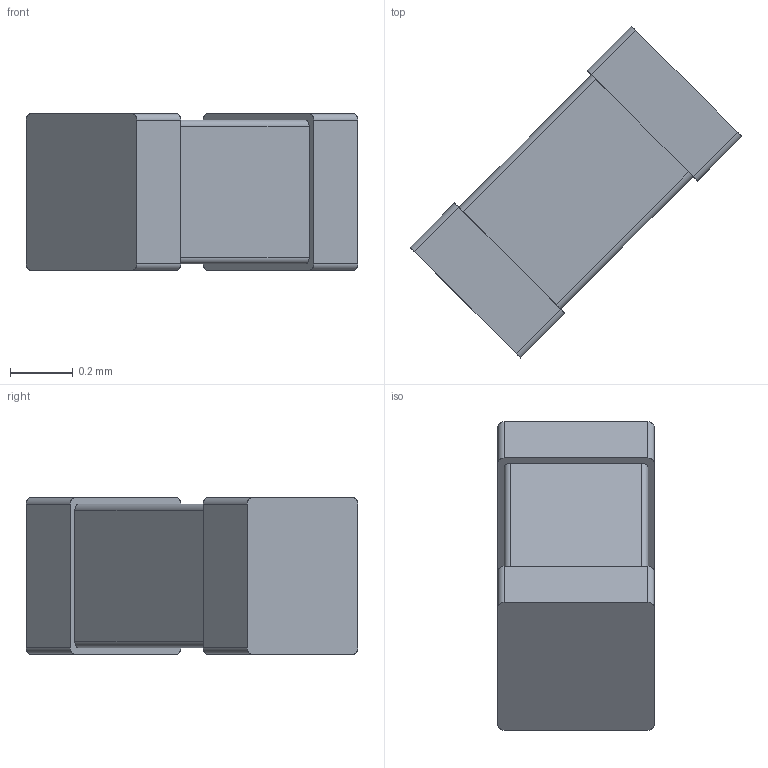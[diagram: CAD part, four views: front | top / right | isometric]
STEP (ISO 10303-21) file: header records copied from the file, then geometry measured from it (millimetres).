
FILE_DESCRIPTION(/* description */ ('STEP AP242 Edition 2','CAx-IF Rec.Pracs.---Representation and Presentation of Product Manufacturing Information (PMI)---4.0---2014-10-13','CAx-IF Rec.Pracs.---3D Tessellated Geometry---0.4---2014-09-14','2;1','CAx-IF Rec.Pracs.---User Defined Attributes---1.5---2016-08-15'),/* implementation_level */ '2;1');
FILE_NAME(/* name */ 'v2_assembly - C_0402_1005Metric_14',/* time_stamp */ '2026-05-19T16:26:04Z',/* author */ (''),/* organization */ (''),/* preprocessor_version */ 'ST-DEVELOPER v20',/* originating_system */ 'ONSHAPE BY PTC INC, 1.215',/* authorisation */ ' ');
FILE_SCHEMA (('AP242_MANAGED_MODEL_BASED_3D_ENGINEERING_MIM_LF { 1 0 10303 442 3 1 4 }'));
Length unit declared in the file: metre
Products named in the file (1): C_0402_1005Metric_14
Bounding box: 1.06 x 1.06 x 0.5 mm (x, y, z)
Volume: 0.2 mm3; surface area: 2.4 mm2
Topology: 1 solids, 1 shells, 28 faces, 72 edges, 48 vertices
Faces by surface type: plane 16, cylinder 12
Entity records: 939 total; most frequent: DIRECTION 154, CARTESIAN_POINT 149, ORIENTED_EDGE 144, EDGE_CURVE 72, AXIS2_PLACEMENT_3D 53, VERTEX_POINT 48, LINE 48, VECTOR 48
